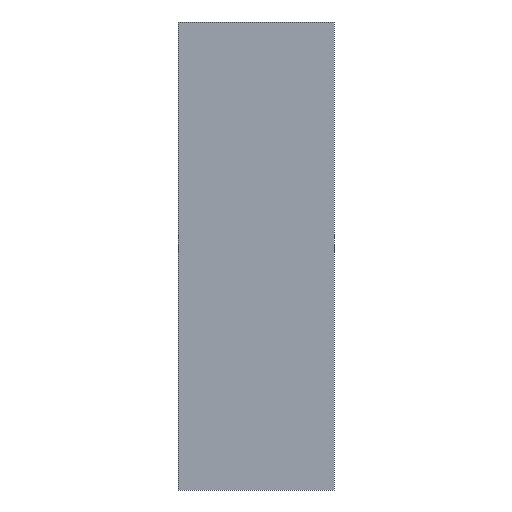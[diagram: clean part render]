
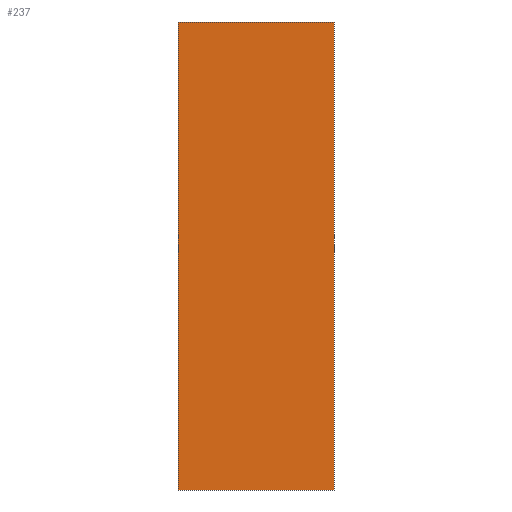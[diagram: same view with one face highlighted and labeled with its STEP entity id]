
A CAD part, front view. The second image highlights one B-rep face of the part: STEP entity #237.
In plain terms, the highlighted planar face has unit normal (0, -1, 0).
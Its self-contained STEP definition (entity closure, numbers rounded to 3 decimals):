
#21 = EDGE_CURVE('',#22,#24,#26,.T.);
#22 = VERTEX_POINT('',#23);
#23 = CARTESIAN_POINT('',(-100.,-2.,0.));
#24 = VERTEX_POINT('',#25);
#25 = CARTESIAN_POINT('',(-100.,-2.,600.));
#26 = SURFACE_CURVE('',#27,(#31,#43),.PCURVE_S1.);
#27 = LINE('',#28,#29);
#28 = CARTESIAN_POINT('',(-100.,-2.,0.));
#29 = VECTOR('',#30,1.);
#30 = DIRECTION('',(0.,0.,1.));
#31 = PCURVE('',#32,#37);
#32 = PLANE('',#33);
#33 = AXIS2_PLACEMENT_3D('',#34,#35,#36);
#34 = CARTESIAN_POINT('',(-100.,-2.,0.));
#35 = DIRECTION('',(1.,0.,0.));
#36 = DIRECTION('',(0.,0.,1.));
#37 = DEFINITIONAL_REPRESENTATION('',(#38),#42);
#38 = LINE('',#39,#40);
#39 = CARTESIAN_POINT('',(0.,0.));
#40 = VECTOR('',#41,1.);
#41 = DIRECTION('',(1.,0.));
#42 = ( GEOMETRIC_REPRESENTATION_CONTEXT(2) 
PARAMETRIC_REPRESENTATION_CONTEXT() REPRESENTATION_CONTEXT('2D SPACE',''
  ) );
#43 = PCURVE('',#44,#49);
#44 = PLANE('',#45);
#45 = AXIS2_PLACEMENT_3D('',#46,#47,#48);
#46 = CARTESIAN_POINT('',(-100.,-2.,0.));
#47 = DIRECTION('',(0.,1.,0.));
#48 = DIRECTION('',(0.,0.,1.));
#49 = DEFINITIONAL_REPRESENTATION('',(#50),#54);
#50 = LINE('',#51,#52);
#51 = CARTESIAN_POINT('',(0.,0.));
#52 = VECTOR('',#53,1.);
#53 = DIRECTION('',(1.,0.));
#54 = ( GEOMETRIC_REPRESENTATION_CONTEXT(2) 
PARAMETRIC_REPRESENTATION_CONTEXT() REPRESENTATION_CONTEXT('2D SPACE',''
  ) );
#72 = PLANE('',#73);
#73 = AXIS2_PLACEMENT_3D('',#74,#75,#76);
#74 = CARTESIAN_POINT('',(-100.,-2.,0.));
#75 = DIRECTION('',(0.,0.,1.));
#76 = DIRECTION('',(1.,0.,0.));
#126 = PLANE('',#127);
#127 = AXIS2_PLACEMENT_3D('',#128,#129,#130);
#128 = CARTESIAN_POINT('',(-100.,-2.,600.));
#129 = DIRECTION('',(0.,0.,1.));
#130 = DIRECTION('',(1.,0.,0.));
#141 = EDGE_CURVE('',#142,#144,#146,.T.);
#142 = VERTEX_POINT('',#143);
#143 = CARTESIAN_POINT('',(100.,-2.,0.));
#144 = VERTEX_POINT('',#145);
#145 = CARTESIAN_POINT('',(100.,-2.,600.));
#146 = SURFACE_CURVE('',#147,(#151,#163),.PCURVE_S1.);
#147 = LINE('',#148,#149);
#148 = CARTESIAN_POINT('',(100.,-2.,0.));
#149 = VECTOR('',#150,1.);
#150 = DIRECTION('',(0.,0.,1.));
#151 = PCURVE('',#152,#157);
#152 = PLANE('',#153);
#153 = AXIS2_PLACEMENT_3D('',#154,#155,#156);
#154 = CARTESIAN_POINT('',(100.,-2.,0.));
#155 = DIRECTION('',(1.,0.,0.));
#156 = DIRECTION('',(0.,0.,1.));
#157 = DEFINITIONAL_REPRESENTATION('',(#158),#162);
#158 = LINE('',#159,#160);
#159 = CARTESIAN_POINT('',(0.,0.));
#160 = VECTOR('',#161,1.);
#161 = DIRECTION('',(1.,0.));
#162 = ( GEOMETRIC_REPRESENTATION_CONTEXT(2) 
PARAMETRIC_REPRESENTATION_CONTEXT() REPRESENTATION_CONTEXT('2D SPACE',''
  ) );
#163 = PCURVE('',#44,#164);
#164 = DEFINITIONAL_REPRESENTATION('',(#165),#169);
#165 = LINE('',#166,#167);
#166 = CARTESIAN_POINT('',(0.,200.));
#167 = VECTOR('',#168,1.);
#168 = DIRECTION('',(1.,0.));
#169 = ( GEOMETRIC_REPRESENTATION_CONTEXT(2) 
PARAMETRIC_REPRESENTATION_CONTEXT() REPRESENTATION_CONTEXT('2D SPACE',''
  ) );
#237 = ADVANCED_FACE('',(#238),#44,.F.);
#238 = FACE_BOUND('',#239,.F.);
#239 = EDGE_LOOP('',(#240,#261,#262,#283));
#240 = ORIENTED_EDGE('',*,*,#241,.F.);
#241 = EDGE_CURVE('',#22,#142,#242,.T.);
#242 = SURFACE_CURVE('',#243,(#247,#254),.PCURVE_S1.);
#243 = LINE('',#244,#245);
#244 = CARTESIAN_POINT('',(-100.,-2.,0.));
#245 = VECTOR('',#246,1.);
#246 = DIRECTION('',(1.,0.,0.));
#247 = PCURVE('',#44,#248);
#248 = DEFINITIONAL_REPRESENTATION('',(#249),#253);
#249 = LINE('',#250,#251);
#250 = CARTESIAN_POINT('',(0.,0.));
#251 = VECTOR('',#252,1.);
#252 = DIRECTION('',(0.,1.));
#253 = ( GEOMETRIC_REPRESENTATION_CONTEXT(2) 
PARAMETRIC_REPRESENTATION_CONTEXT() REPRESENTATION_CONTEXT('2D SPACE',''
  ) );
#254 = PCURVE('',#72,#255);
#255 = DEFINITIONAL_REPRESENTATION('',(#256),#260);
#256 = LINE('',#257,#258);
#257 = CARTESIAN_POINT('',(0.,0.));
#258 = VECTOR('',#259,1.);
#259 = DIRECTION('',(1.,0.));
#260 = ( GEOMETRIC_REPRESENTATION_CONTEXT(2) 
PARAMETRIC_REPRESENTATION_CONTEXT() REPRESENTATION_CONTEXT('2D SPACE',''
  ) );
#261 = ORIENTED_EDGE('',*,*,#21,.T.);
#262 = ORIENTED_EDGE('',*,*,#263,.T.);
#263 = EDGE_CURVE('',#24,#144,#264,.T.);
#264 = SURFACE_CURVE('',#265,(#269,#276),.PCURVE_S1.);
#265 = LINE('',#266,#267);
#266 = CARTESIAN_POINT('',(-100.,-2.,600.));
#267 = VECTOR('',#268,1.);
#268 = DIRECTION('',(1.,0.,0.));
#269 = PCURVE('',#44,#270);
#270 = DEFINITIONAL_REPRESENTATION('',(#271),#275);
#271 = LINE('',#272,#273);
#272 = CARTESIAN_POINT('',(600.,0.));
#273 = VECTOR('',#274,1.);
#274 = DIRECTION('',(0.,1.));
#275 = ( GEOMETRIC_REPRESENTATION_CONTEXT(2) 
PARAMETRIC_REPRESENTATION_CONTEXT() REPRESENTATION_CONTEXT('2D SPACE',''
  ) );
#276 = PCURVE('',#126,#277);
#277 = DEFINITIONAL_REPRESENTATION('',(#278),#282);
#278 = LINE('',#279,#280);
#279 = CARTESIAN_POINT('',(0.,0.));
#280 = VECTOR('',#281,1.);
#281 = DIRECTION('',(1.,0.));
#282 = ( GEOMETRIC_REPRESENTATION_CONTEXT(2) 
PARAMETRIC_REPRESENTATION_CONTEXT() REPRESENTATION_CONTEXT('2D SPACE',''
  ) );
#283 = ORIENTED_EDGE('',*,*,#141,.F.);
